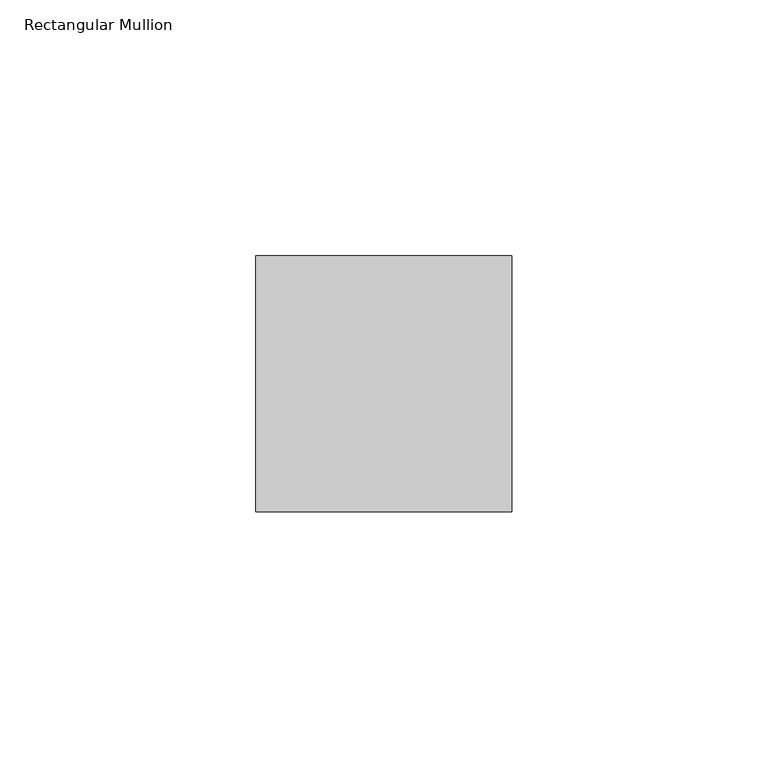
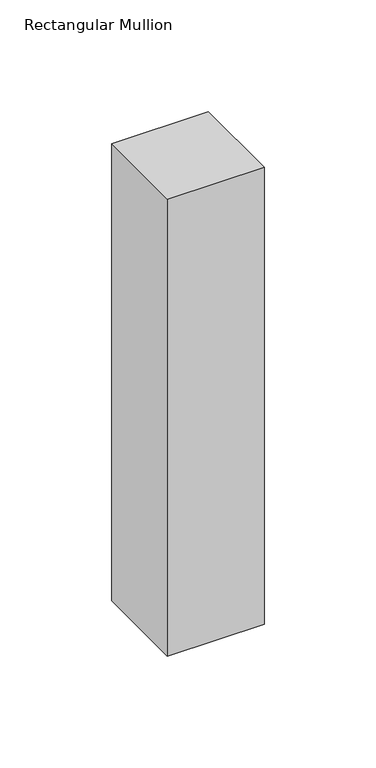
"""IFC4 building model written with IfcOpenShell, lengths in millimetres: member geometry, Rectangular Mullion : RSen_21_CWM_support profile 50x50_gen_duco projects."""

from ifc_helpers import new_model, si_unit, frame, origin, place, context, project, spatial, polyline, outline, extrude, source, transform, mapped, element, save


def rectangular_mullion_552ac5bc(model_context):
    return source(origin(), model_context, "Body", "SweptSolid", [
        extrude(outline(polyline([(25.0, 1.0), (25.0, -49.0), (-25.0, -49.0), (-25.0, 1.0), (25.0, 1.0)])), frame((0.0, 0.0, -250.0), z_axis=(0.0, 0.0, 1.0), x_axis=(1.0, 0.0, 0.0)), (0.0, 0.0, 1.0), 250.0),
    ])


if __name__ == "__main__":
    model = new_model("IFC4")
    model_context = context("Model", 3, world=origin())
    ifc_project = project(units=[si_unit("LENGTHUNIT", "METRE", prefix="MILLI")], contexts=[model_context])
    site = spatial("IfcSite", under=ifc_project)
    building = spatial("IfcBuilding", under=site)
    placement = place(None, origin())
    rectangular_mullion_shape = rectangular_mullion_552ac5bc(model_context)
    element("IfcMember", 1, ObjectType="Rectangular Mullion : RSen_21_CWM_support profile 50x50_gen_duco projects", at=placement, inside=building, context=model_context, shape_type="MappedRepresentation", body=[
        mapped(rectangular_mullion_shape, transform((0.0, 0.0, 0.0), x_axis=(1.0, 0.0, 0.0), y_axis=(0.0, 1.0, 0.0), z_axis=(0.0, 0.0, 1.0))),
    ])
    save(model, "model.ifc")
